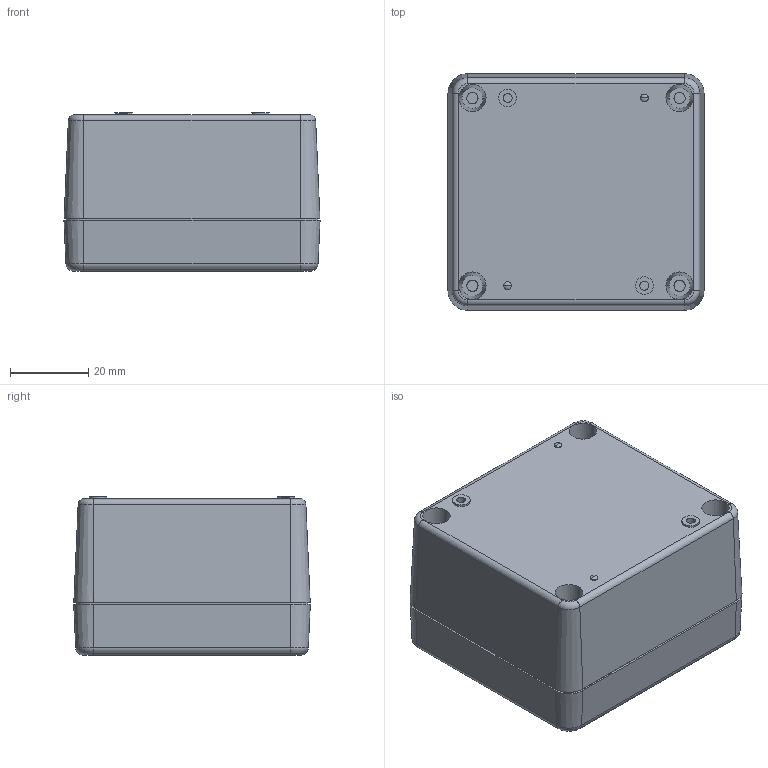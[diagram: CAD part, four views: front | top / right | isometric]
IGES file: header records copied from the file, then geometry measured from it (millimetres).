
Global section: file name: No Iges File Name specified; native system: Autodesk Inventor 2009; preprocessor: AutoDesk Inventor Iges Exporter R2009; author: tmalott; date: 20080709.084252; units: millimetre
Bounding box: 65.5 x 60.5 x 40.5 mm (x, y, z)
Volume: 51742 mm3; surface area: 44033 mm2
Topology: 11 solids, 11 shells, 911 faces, 2260 edges, 1420 vertices
Faces by surface type: plane 267, revolution 236, cone 198, cylinder 164, torus 18, bspline 16, sphere 12
